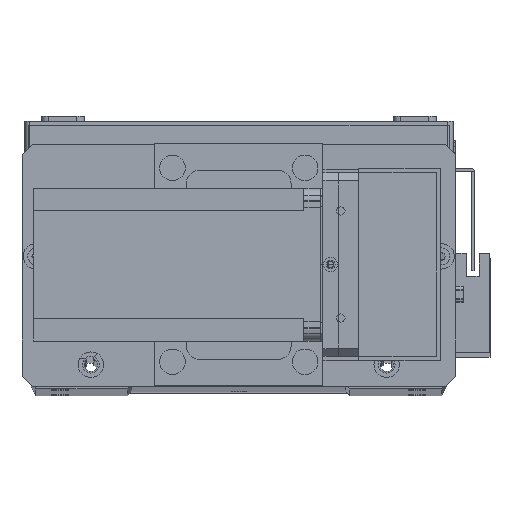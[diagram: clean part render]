
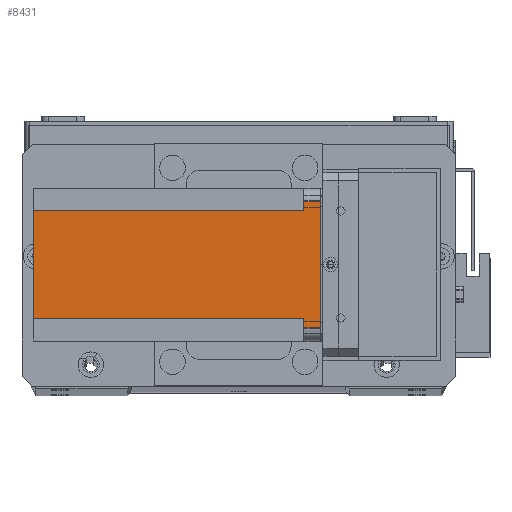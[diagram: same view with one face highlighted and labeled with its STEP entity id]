
A CAD part, top view. The second image highlights one B-rep face of the part: STEP entity #8431.
In plain terms, the highlighted planar face has unit normal (0, 0, 1) as drawn and (-1, 0, 0) by its records, which use the part's own axes.
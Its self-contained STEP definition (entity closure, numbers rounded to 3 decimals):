
#677 = VERTEX_POINT ( 'NONE', #29796 ) ;
#861 = VECTOR ( 'NONE', #26396, 1000. ) ;
#1805 = VERTEX_POINT ( 'NONE', #6689 ) ;
#3739 = VERTEX_POINT ( 'NONE', #14096 ) ;
#5992 = CARTESIAN_POINT ( 'NONE',  ( 0., 51., -6.5 ) ) ;
#6689 = CARTESIAN_POINT ( 'NONE',  ( 0., 51., -112.5 ) ) ;
#7686 = DIRECTION ( 'NONE',  ( 0., -1., 0. ) ) ;
#7894 = PLANE ( 'NONE',  #8672 ) ;
#8110 = CARTESIAN_POINT ( 'NONE',  ( 0., 0., -112.5 ) ) ;
#8274 = DIRECTION ( 'NONE',  ( 0., 1., 0. ) ) ;
#8328 = VERTEX_POINT ( 'NONE', #22556 ) ;
#8431 = ADVANCED_FACE ( 'NONE', ( #10893 ), #7894, .T. ) ;
#8527 = CARTESIAN_POINT ( 'NONE',  ( 0., 60., -6.5 ) ) ;
#8537 = LINE ( 'NONE', #13950, #11242 ) ;
#8672 = AXIS2_PLACEMENT_3D ( 'NONE', #8110, #10399, #7686 ) ;
#10399 = DIRECTION ( 'NONE',  ( -1., 0., 0. ) ) ;
#10486 = CARTESIAN_POINT ( 'NONE',  ( 0., 5., -6.5 ) ) ;
#10710 = VERTEX_POINT ( 'NONE', #5992 ) ;
#10845 = VECTOR ( 'NONE', #25486, 1000. ) ;
#10893 = FACE_OUTER_BOUND ( 'NONE', #27824, .T. ) ;
#11009 = LINE ( 'NONE', #25137, #10845 ) ;
#11242 = VECTOR ( 'NONE', #14101, 1000. ) ;
#11834 = EDGE_CURVE ( 'NONE', #677, #8328, #13887, .T. ) ;
#12170 = EDGE_CURVE ( 'NONE', #1805, #8328, #11009, .T. ) ;
#12291 = DIRECTION ( 'NONE',  ( 0., -1., 0. ) ) ;
#12620 = CARTESIAN_POINT ( 'NONE',  ( 0., 0., 0. ) ) ;
#12933 = VECTOR ( 'NONE', #8274, 1000. ) ;
#13032 = EDGE_CURVE ( 'NONE', #1805, #10710, #8537, .T. ) ;
#13459 = EDGE_CURVE ( 'NONE', #10710, #3739, #15208, .T. ) ;
#13738 = VECTOR ( 'NONE', #29995, 1000. ) ;
#13887 = LINE ( 'NONE', #29972, #13738 ) ;
#13950 = CARTESIAN_POINT ( 'NONE',  ( 0., 51., -112.5 ) ) ;
#14096 = CARTESIAN_POINT ( 'NONE',  ( 0., 55., -6.5 ) ) ;
#14101 = DIRECTION ( 'NONE',  ( 0., 0., 1. ) ) ;
#14225 = EDGE_CURVE ( 'NONE', #26341, #3739, #19049, .T. ) ;
#14653 = EDGE_CURVE ( 'NONE', #30542, #21101, #30074, .T. ) ;
#14707 = LINE ( 'NONE', #12620, #19626 ) ;
#14755 = EDGE_CURVE ( 'NONE', #30542, #677, #14844, .T. ) ;
#14844 = LINE ( 'NONE', #26365, #861 ) ;
#15208 = LINE ( 'NONE', #8527, #12933 ) ;
#15565 = CARTESIAN_POINT ( 'NONE',  ( 0., 55., 0. ) ) ;
#17379 = EDGE_CURVE ( 'NONE', #26341, #21101, #14707, .T. ) ;
#19049 = LINE ( 'NONE', #21241, #31235 ) ;
#19626 = VECTOR ( 'NONE', #12291, 1000. ) ;
#21101 = VERTEX_POINT ( 'NONE', #23750 ) ;
#21241 = CARTESIAN_POINT ( 'NONE',  ( 0., 55., -112.5 ) ) ;
#21917 = DIRECTION ( 'NONE',  ( 0., 0., -1. ) ) ;
#22556 = CARTESIAN_POINT ( 'NONE',  ( 0., 9., -112.5 ) ) ;
#22583 = ORIENTED_EDGE ( 'NONE', *, *, #14225, .T. ) ;
#23660 = VECTOR ( 'NONE', #28506, 1000. ) ;
#23750 = CARTESIAN_POINT ( 'NONE',  ( 0., 5., 0. ) ) ;
#23793 = ORIENTED_EDGE ( 'NONE', *, *, #13459, .F. ) ;
#24423 = ORIENTED_EDGE ( 'NONE', *, *, #14755, .F. ) ;
#25137 = CARTESIAN_POINT ( 'NONE',  ( 0., 0., -112.5 ) ) ;
#25486 = DIRECTION ( 'NONE',  ( 0., -1., 0. ) ) ;
#26261 = ORIENTED_EDGE ( 'NONE', *, *, #14653, .T. ) ;
#26341 = VERTEX_POINT ( 'NONE', #15565 ) ;
#26365 = CARTESIAN_POINT ( 'NONE',  ( 0., 0., -6.5 ) ) ;
#26396 = DIRECTION ( 'NONE',  ( 0., 1., 0. ) ) ;
#27824 = EDGE_LOOP ( 'NONE', ( #24423, #26261, #30300, #22583, #23793, #31539, #29497, #29012 ) ) ;
#28506 = DIRECTION ( 'NONE',  ( 0., 0., 1. ) ) ;
#28606 = CARTESIAN_POINT ( 'NONE',  ( 0., 5., -112.5 ) ) ;
#29012 = ORIENTED_EDGE ( 'NONE', *, *, #11834, .F. ) ;
#29497 = ORIENTED_EDGE ( 'NONE', *, *, #12170, .T. ) ;
#29796 = CARTESIAN_POINT ( 'NONE',  ( 0., 9., -6.5 ) ) ;
#29972 = CARTESIAN_POINT ( 'NONE',  ( 0., 9., -112.5 ) ) ;
#29995 = DIRECTION ( 'NONE',  ( 0., 0., -1. ) ) ;
#30074 = LINE ( 'NONE', #28606, #23660 ) ;
#30300 = ORIENTED_EDGE ( 'NONE', *, *, #17379, .F. ) ;
#30542 = VERTEX_POINT ( 'NONE', #10486 ) ;
#31235 = VECTOR ( 'NONE', #21917, 1000. ) ;
#31539 = ORIENTED_EDGE ( 'NONE', *, *, #13032, .F. ) ;
